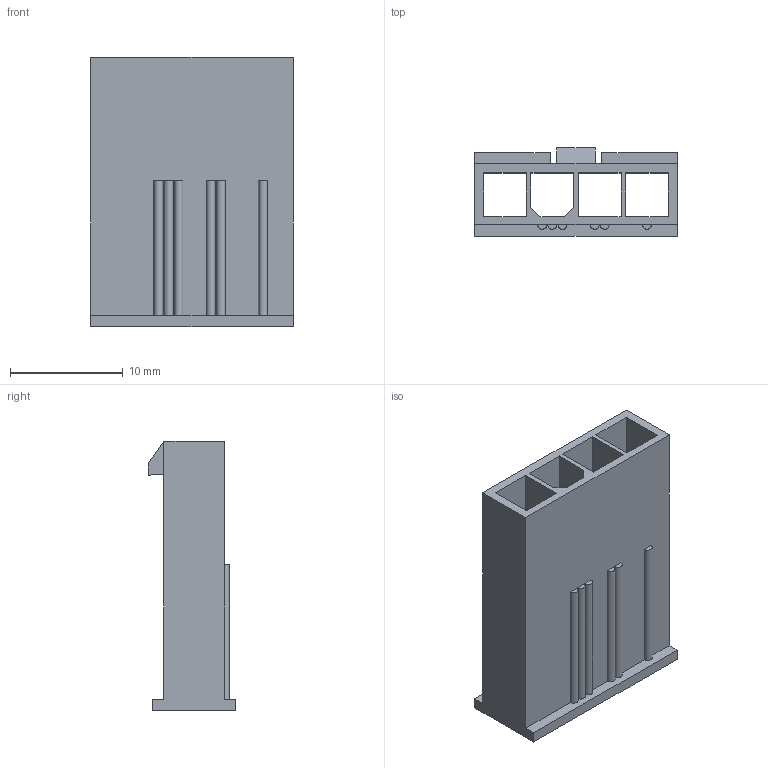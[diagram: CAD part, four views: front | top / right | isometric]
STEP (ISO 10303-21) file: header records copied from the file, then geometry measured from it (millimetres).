
FILE_DESCRIPTION((''),'2;1');
FILE_NAME('1726460413','2015-05-29T',('me'),(''),'PRO/ENGINEER BY PARAMETRIC TECHNOLOGY CORPORATION, 2011490','PRO/ENGINEER BY PARAMETRIC TECHNOLOGY CORPORATION, 2011490','');
FILE_SCHEMA(('CONFIG_CONTROL_DESIGN'));
Length unit declared in the file: millimetre
Products named in the file (1): 1726460413
Bounding box: 18 x 7.8 x 23.9 mm (x, y, z)
Volume: 980.4 mm3; surface area: 2759.2 mm2
Topology: 1 solids, 1 shells, 49 faces, 139 edges, 92 vertices
Faces by surface type: plane 43, cylinder 6
Entity records: 1627 total; most frequent: CARTESIAN_POINT 281, ORIENTED_EDGE 278, DIRECTION 251, EDGE_CURVE 139, VECTOR 127, LINE 127, VERTEX_POINT 92, AXIS2_PLACEMENT_3D 62
